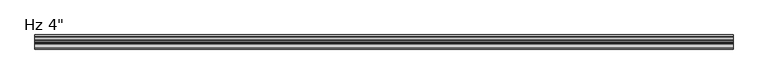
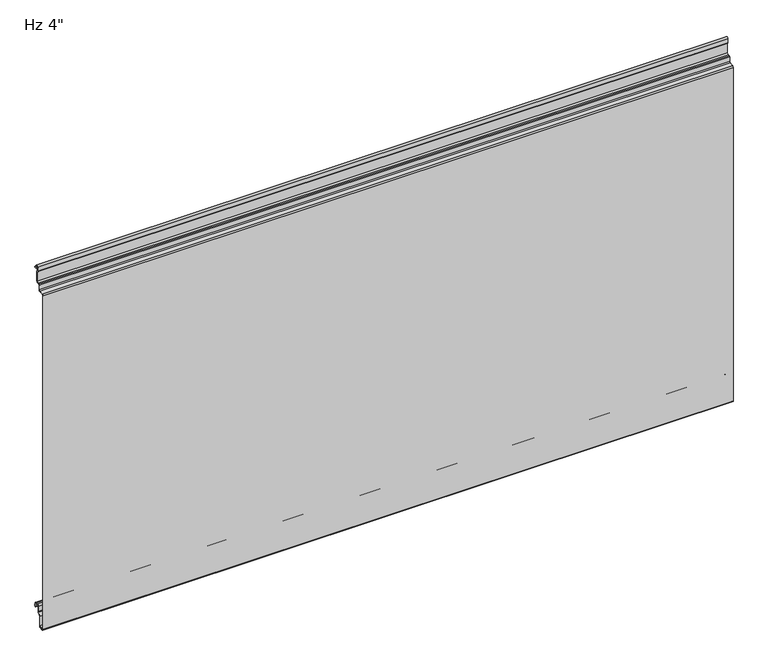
"""IFC4 building model written with IfcOpenShell, lengths in millimetres: plate geometry."""

from ifc_helpers import new_model, si_unit, point, frame, frame_2d, origin, place, context, project, spatial, polyline, circle_curve, trimmed, segment, composite_curve, outline, extrude, source, transform, mapped, element, save


def plate_8a0d36e0(model_context):
    return source(origin(), model_context, "Body", "SweptSolid", [
        extrude(outline(composite_curve([segment(trimmed(circle_curve(frame_2d((-98.0296795, -32.4521105)), 3.5702393), [point((-97.7184091, -36.0087549))], [point((-101.5999188, -32.4521083))], False, "CARTESIAN"), True, "CONTINUOUS"), segment(polyline([(-101.5999188, -32.4521083), (-101.5994418, 713.5384307)]), True, "CONTINUOUS"), segment(trimmed(circle_curve(frame_2d((-98.6494477, 713.5384288)), 2.9499941), [point((-101.5994418, 713.5384307))], [point((-98.9065566, 716.4771973))], False, "CARTESIAN"), True, "CONTINUOUS"), segment(polyline([(-98.9065566, 716.4771973), (-90.442179, 717.2177344)]), True, "CONTINUOUS"), segment(trimmed(circle_curve(frame_2d((-90.6191048, 719.2400056)), 2.0299959), [point((-90.442179, 717.2177344))], [point((-88.5917189, 719.3429135))], True, "CARTESIAN"), True, "CONTINUOUS"), segment(polyline([(-88.5917189, 719.3429135), (-88.5917189, 729.458279)]), True, "CONTINUOUS"), segment(trimmed(circle_curve(frame_2d((-86.6425659, 729.4595944)), 1.9491534), [point((-88.5917189, 729.458279))], [point((-86.6425659, 731.4087478))], False, "CARTESIAN"), True, "CONTINUOUS"), segment(polyline([(-86.6425659, 731.4087478), (-83.5011658, 731.4087475)]), True, "CONTINUOUS"), segment(trimmed(circle_curve(frame_2d((-83.5011658, 734.4087415)), 2.999994), [point((-83.5011658, 731.4087475))], [point((-80.5011718, 734.4087415))], True, "CARTESIAN"), True, "CONTINUOUS"), segment(polyline([(-80.5011718, 734.4087415), (-80.5011718, 755.0122013), (-81.7470159, 755.7314897)]), True, "CONTINUOUS"), segment(trimmed(circle_curve(frame_2d((-81.0220173, 756.987224)), 1.4499971), [point((-81.7470159, 755.7314897))], [point((-82.4712455, 757.0344401))], False, "CARTESIAN"), True, "CONTINUOUS"), segment(polyline([(-82.4712455, 757.0344401), (-82.1263372, 765.7463704)]), True, "CONTINUOUS"), segment(trimmed(circle_curve(frame_2d((-79.0268913, 765.6236622)), 3.1018739), [point((-82.1263372, 765.7463704))], [point((-75.9277704, 765.7543204))], False, "CARTESIAN"), True, "CONTINUOUS"), segment(polyline([(-75.9277704, 765.7543204), (-75.6839836, 761.7587)]), True, "CONTINUOUS"), segment(trimmed(circle_curve(frame_2d((-74.8437539, 761.8099653)), 0.8417922), [point((-75.6839836, 761.7587))], [point((-74.8732011, 760.9686884))], True, "CARTESIAN"), True, "CONTINUOUS"), segment(polyline([(-74.8732011, 760.9686884), (-72.1027683, 760.9686884), (-72.1027683, 759.9686884), (-74.8873149, 759.9686884)]), True, "CONTINUOUS"), segment(trimmed(circle_curve(frame_2d((-74.8437539, 761.8099653)), 1.8417922), [point((-74.8873149, 759.9686884))], [point((-76.6821274, 761.6977997))], False, "CARTESIAN"), True, "CONTINUOUS"), segment(polyline([(-76.6821274, 761.6977997), (-76.9265424, 765.7037148)]), True, "CONTINUOUS"), segment(trimmed(circle_curve(frame_2d((-79.0268913, 765.6236622)), 2.1018739), [point((-76.9265424, 765.7037148))], [point((-81.1271199, 765.706811))], True, "CARTESIAN"), True, "CONTINUOUS"), segment(polyline([(-81.1271199, 765.706811), (-81.4823803, 756.7334028), (-79.5011718, 755.5895515), (-79.5011718, 734.4087415)]), True, "CONTINUOUS"), segment(trimmed(circle_curve(frame_2d((-83.5011658, 734.4087415)), 3.999994), [point((-79.5011718, 734.4087415))], [point((-83.5011658, 730.4087475))], False, "CARTESIAN"), True, "CONTINUOUS"), segment(polyline([(-83.5011658, 730.4087475), (-86.6425659, 730.4087475)]), True, "CONTINUOUS"), segment(trimmed(circle_curve(frame_2d((-86.6425659, 729.4595944)), 0.9491534), [point((-86.6425659, 730.4087475))], [point((-87.5917189, 729.4586765))], True, "CARTESIAN"), True, "CONTINUOUS"), segment(polyline([(-87.5917189, 729.4586765), (-87.5917189, 719.3657441)]), True, "CONTINUOUS"), segment(trimmed(circle_curve(frame_2d((-90.6191048, 719.2400056)), 3.0299959), [point((-87.5917189, 719.3657441))], [point((-90.3550232, 716.2215397))], False, "CARTESIAN"), True, "CONTINUOUS"), segment(polyline([(-90.3550232, 716.2215397), (-98.8193197, 715.4810097)]), True, "CONTINUOUS"), segment(trimmed(circle_curve(frame_2d((-98.6493665, 713.5384359)), 1.9499941), [point((-98.8193197, 715.4810097))], [point((-100.5993606, 713.5384359))], True, "CARTESIAN"), True, "CONTINUOUS"), segment(polyline([(-100.5993606, 713.5384359), (-100.5993606, -32.509446)]), True, "CONTINUOUS"), segment(trimmed(circle_curve(frame_2d((-98.0297607, -32.4521176)), 2.5702393), [point((-100.5993606, -32.509446))], [point((-97.8056751, -35.0125699))], True, "CARTESIAN"), True, "CONTINUOUS"), segment(polyline([(-97.8056751, -35.0125699), (-92.8238542, -34.5765709)]), True, "CONTINUOUS"), segment(trimmed(circle_curve(frame_2d((-93.3052448, -31.9198392)), 2.6999926), [point((-92.8238542, -34.5765709))], [point((-90.6052522, -31.9198392))], True, "CARTESIAN"), True, "CONTINUOUS"), segment(polyline([(-90.6052522, -31.9198392), (-90.6052522, -9.8247096), (-85.1031811, -4.3226385)]), True, "CONTINUOUS"), segment(trimmed(circle_curve(frame_2d((-86.3052588, -3.1205608)), 1.6999946), [point((-85.1031811, -4.3226385))], [point((-84.6052642, -3.1205608))], True, "CARTESIAN"), True, "CONTINUOUS"), segment(polyline([(-84.6052642, -3.1205608), (-84.6052642, 8.6903283)]), True, "CONTINUOUS"), segment(trimmed(circle_curve(frame_2d((-81.2552689, 8.6903283)), 3.3499953), [point((-84.6052642, 8.6903283))], [point((-81.2552689, 12.0403236))], False, "CARTESIAN"), True, "CONTINUOUS"), segment(polyline([(-81.2552689, 12.0403236), (-76.8552777, 12.0403236)]), True, "CONTINUOUS"), segment(trimmed(circle_curve(frame_2d((-76.8552777, 8.6903283)), 3.3499953), [point((-76.8552777, 12.0403236))], [point((-73.5052824, 8.6903283))], False, "CARTESIAN"), True, "CONTINUOUS"), segment(polyline([(-73.5052824, 8.6903283), (-73.5052824, 5.9912173), (-72.1068035, 5.9912173), (-72.1068035, 2.2328239)]), True, "CONTINUOUS"), segment(trimmed(circle_curve(frame_2d((-73.3068002, 2.2313092)), 1.1999976), [point((-72.1068035, 2.2328239))], [point((-73.2762782, 1.0316999))], False, "CARTESIAN"), True, "CONTINUOUS"), segment(trimmed(circle_curve(frame_2d((-73.3068002, 2.2313092)), 1.1999976), [point((-73.2762782, 1.0316999))], [point((-74.5052824, 2.1710221))], False, "CARTESIAN"), True, "CONTINUOUS"), segment(polyline([(-74.5052824, 2.1710221), (-74.5052824, 8.6903283)]), True, "CONTINUOUS"), segment(trimmed(circle_curve(frame_2d((-76.8552777, 8.6903283)), 2.3499953), [point((-74.5052824, 8.6903283))], [point((-76.8552777, 11.0403236))], True, "CARTESIAN"), True, "CONTINUOUS"), segment(polyline([(-76.8552777, 11.0403236), (-81.2552689, 11.0403236)]), True, "CONTINUOUS"), segment(trimmed(circle_curve(frame_2d((-81.2552689, 8.6903283)), 2.3499953), [point((-81.2552689, 11.0403236))], [point((-83.6052642, 8.6903283))], True, "CARTESIAN"), True, "CONTINUOUS"), segment(polyline([(-83.6052642, 8.6903283), (-83.6052642, -3.1205608)]), True, "CONTINUOUS"), segment(trimmed(circle_curve(frame_2d((-86.3052588, -3.1205608)), 2.6999946), [point((-83.6052642, -3.1205608))], [point((-84.3960743, -5.0297453))], False, "CARTESIAN"), True, "CONTINUOUS"), segment(polyline([(-84.3960743, -5.0297453), (-89.2244918, -9.8581627)]), True, "CONTINUOUS"), segment(trimmed(circle_curve(frame_2d((-88.3052548, -10.7773997)), 1.2999974), [point((-89.2244918, -9.8581627))], [point((-89.6052522, -10.7773997))], True, "CARTESIAN"), True, "CONTINUOUS"), segment(polyline([(-89.6052522, -10.7773997), (-89.6052522, -31.9198392)]), True, "CONTINUOUS"), segment(trimmed(circle_curve(frame_2d((-93.3052448, -31.9198392)), 3.6999926), [point((-89.6052522, -31.9198392))], [point((-92.6944437, -35.5690675))], False, "CARTESIAN"), True, "CONTINUOUS"), segment(polyline([(-92.6944437, -35.5690675), (-97.7184091, -36.0087549)]), True, "CONTINUOUS")], self_intersect=False)), frame((-730.0, 0.0, 0.0), z_axis=(1.0, 0.0, 0.0), x_axis=(0.0, 1.0, 0.0)), (0.0, 0.0, 1.0), 1460.0),
    ])


if __name__ == "__main__":
    model = new_model("IFC4")
    model_context = context("Model", 3, world=origin())
    ifc_project = project(units=[si_unit("LENGTHUNIT", "METRE", prefix="MILLI")], contexts=[model_context])
    site = spatial("IfcSite", under=ifc_project)
    building = spatial("IfcBuilding", under=site)
    placement = place(None, origin())
    plate_shape = plate_8a0d36e0(model_context)
    element("IfcPlate", 1, ObjectType="KIP-30-Karrier-KP-R19-CP-Hz-FL3-8in_SL : Hz 4\"", at=placement, inside=building, context=model_context, shape_type="MappedRepresentation", body=[
        mapped(plate_shape, transform((0.0, 0.0, 0.0), x_axis=(1.0, 0.0, 0.0), y_axis=(0.0, 1.0, 0.0), z_axis=(0.0, 0.0, 1.0))),
    ])
    save(model, "model.ifc")
